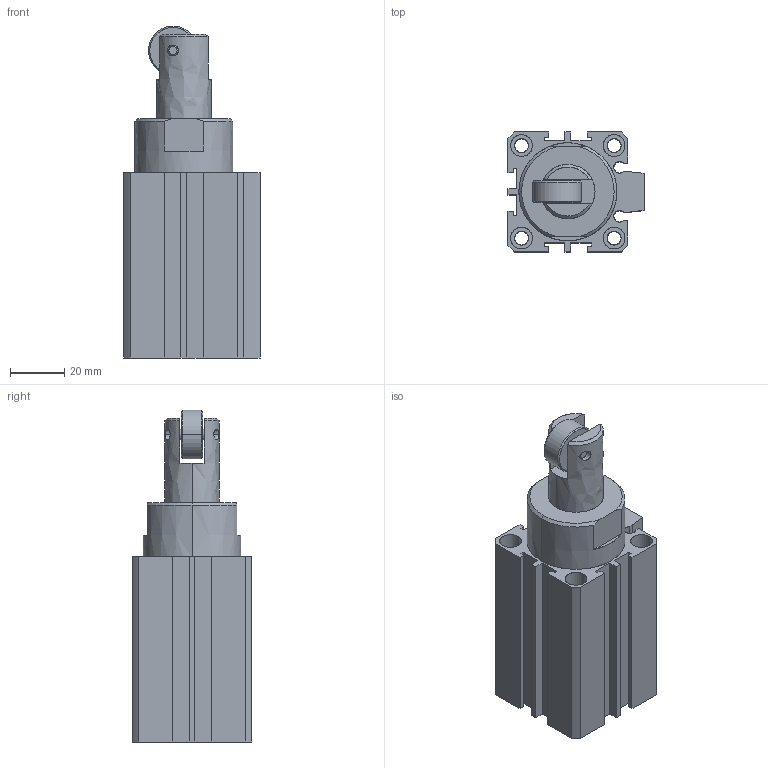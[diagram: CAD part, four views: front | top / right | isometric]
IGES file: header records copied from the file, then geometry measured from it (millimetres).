
Start section: SolidWorks IGES file using analytic representation for surfaces
Global section: file name: C:\Documents and Settings\admin\Bureau\stage de yaya\Plan Philippe Pince\PINCE\VUSB\pièces en 3D\VUSB STEP\ELOC-3DWG\ELOC-32-15-TIGE SORTIE.IGS; native system: SolidWorks 2007; preprocessor: SolidWorks 2007; author: admin; date: 080328.083747; units: millimetre
Bounding box: 50 x 44 x 122 mm (x, y, z)
Surface area: 39506.2 mm2 (no closed solid volume)
Topology: 0 solids, 0 shells, 820 faces, 11109 edges, 11147 vertices
Faces by surface type: bspline 747, revolution 73
